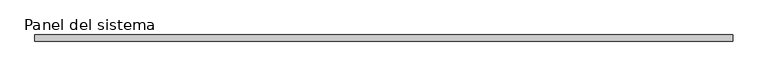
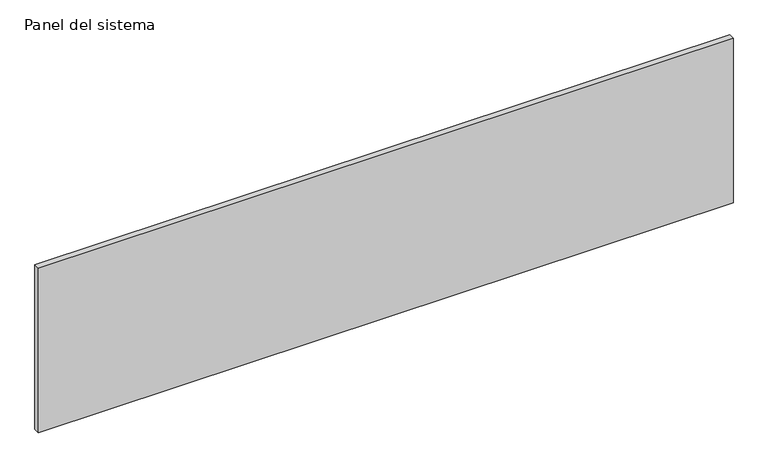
"""IFC4 building model written with IfcOpenShell, lengths in millimetres: plate geometry, Panel del sistema : Hiansa Panel - PANELES DE ILUMINACIÓN - POLICLADD Hor - 35mm."""

from ifc_helpers import new_model, si_unit, origin, origin_with_axes, place, context, project, spatial, polyline, outline, extrude, source, transform, mapped, element, save


def panel_del_sistema_cfb1d93e(model_context):
    return source(origin(), model_context, "Body", "SweptSolid", [
        extrude(outline(polyline([(2000.0, -35.0), (-2000.0, -35.0), (-2000.0, 0.0), (2000.0, 0.0), (2000.0, -35.0)])), origin_with_axes(), (0.0, 0.0, 1.0), 1000.0),
    ])


if __name__ == "__main__":
    model = new_model("IFC4")
    model_context = context("Model", 3, world=origin())
    ifc_project = project(units=[si_unit("LENGTHUNIT", "METRE", prefix="MILLI")], contexts=[model_context])
    site = spatial("IfcSite", under=ifc_project)
    building = spatial("IfcBuilding", under=site)
    placement = place(None, origin())
    panel_del_sistema_shape = panel_del_sistema_cfb1d93e(model_context)
    element("IfcPlate", 1, ObjectType="Panel del sistema : Hiansa Panel - PANELES DE ILUMINACIÓN - POLICLADD Hor - 35mm", at=placement, inside=building, context=model_context, shape_type="MappedRepresentation", body=[
        mapped(panel_del_sistema_shape, transform((0.0, 0.0, 0.0), x_axis=(1.0, 0.0, 0.0), y_axis=(0.0, 1.0, 0.0), z_axis=(0.0, 0.0, 1.0))),
    ])
    save(model, "model.ifc")
